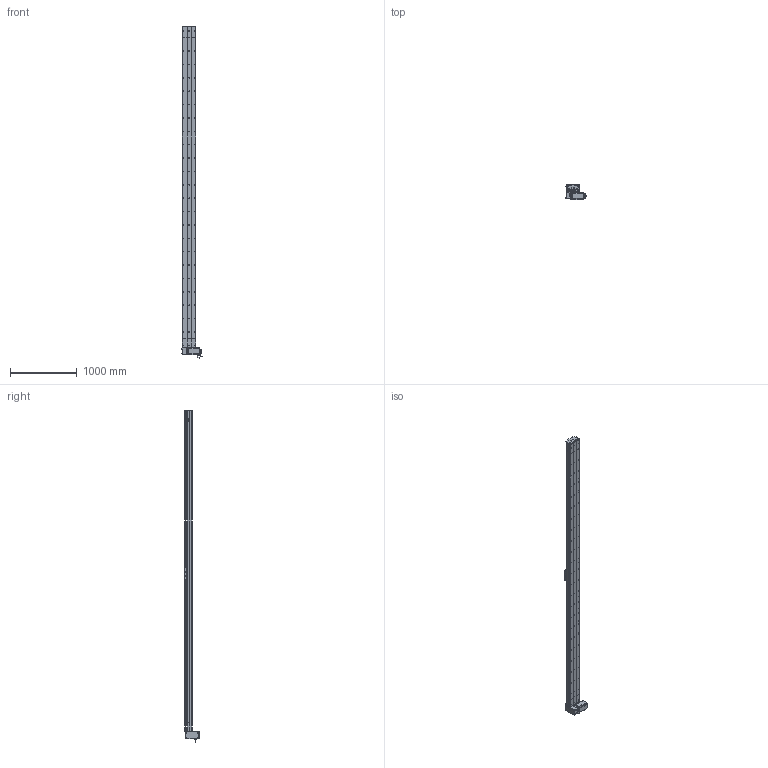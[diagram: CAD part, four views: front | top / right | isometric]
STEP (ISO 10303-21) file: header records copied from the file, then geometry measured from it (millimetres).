
FILE_DESCRIPTION (( 'STEP AP214' ), '1' );
FILE_NAME ('D20 TBH RU S4500.STEP', '2010-07-01T09:30:12', ( 'Conseil Régional Haute-Normandie' ), ( 'Conseil Régional Haute-Normandie' ), 'SwSTEP 2.0', 'SolidWorks 2010', '' );
FILE_SCHEMA (( 'AUTOMOTIVE_DESIGN' ));
Length unit declared in the file: millimetre
Products named in the file (40): Couroie tail D20_Default; plaque de  bout head D20B RU_Default; poulie head D20_Default; couvercle head D20_Default; rail head D20; corpl head D20_Default; head RU_Default; rail tail D20; vis M5 L8 90°_Default; tete d''axe poulie D20B; couvercle tail D20_Default; cache arbre D20_Default; vis M8 L12_Default; clavette; Conecteur_Default; vis M5 L12_Default; Conecteur2_Default; codeur 110BLDC170A-630x; corps 110BLDC170A-630x; avant 110BLDC170A-630x; Moteur motionking 110BLDC170A-640x; vis M5 L25_Default; vis M5 L5_Default; couroie_Default; vis M5 L70_Default; Plaque racord D20LH_Default; Renvoi RU D20_Default; cache D20_Default; corp D20 S4500_Default; Course B L4500_Default; D20 TBH RU S4500; chariot D20B_Default; rail + couroie  D20 S4500; couvercle D20 S4500_Default; tail D20+100_Default; guide D20B; Chariot D20B; plaque de  bout tail D20_Default; poulie tail D20_Default; corpl tail D20 +100_Default
Assembly tree (71 placements, depth 4):
  D20 TBH RU S4500
    head RU_Default
      vis M5 L5_Default  x4
      couroie_Default
      corpl head D20_Default
      vis M5 L12_Default  x10
      cache D20_Default  x2
      poulie head D20_Default
      vis M5 L70_Default  x4
      vis M8 L12_Default  x4
      Plaque racord D20LH_Default
      vis M5 L25_Default  x2
      rail head D20
      cache arbre D20_Default
      plaque de  bout head D20B RU_Default
      Moteur motionking 110BLDC170A-640x
        Conecteur2_Default
        clavette
        avant 110BLDC170A-630x
        corps 110BLDC170A-630x
        codeur 110BLDC170A-630x
        Conecteur_Default
      Renvoi RU D20_Default
      couvercle head D20_Default
    tail D20+100_Default
      plaque de  bout tail D20_Default
      tete d''axe poulie D20B
      vis M5 L8 90°_Default  x2
      couvercle tail D20_Default
      poulie tail D20_Default
      vis M5 L12_Default  x4
      rail tail D20
      vis M5 L25_Default  x2
      corpl tail D20 +100_Default
      Couroie tail D20_Default
    Course B L4500_Default
      corp D20 S4500_Default
      rail + couroie  D20 S4500
      couvercle D20 S4500_Default
    chariot D20B_Default
      vis M5 L12_Default  x4
      guide D20B  x2
      Chariot D20B
Bounding box: 304.2 x 223.2 x 4965 mm (x, y, z)
Volume: 37323369.9 mm3; surface area: 9376025.3 mm2
Topology: 95 solids, 95 shells, 3003 faces, 7881 edges, 5105 vertices
Faces by surface type: plane 1672, cylinder 1007, bspline 136, cone 99, torus 89
Entity records: 100366 total; most frequent: CARTESIAN_POINT 33247, ORIENTED_EDGE 12418, DIRECTION 11562, EDGE_CURVE 6209, VERTEX_POINT 4091, AXIS2_PLACEMENT_3D 3874, VECTOR 3814, LINE 3814
